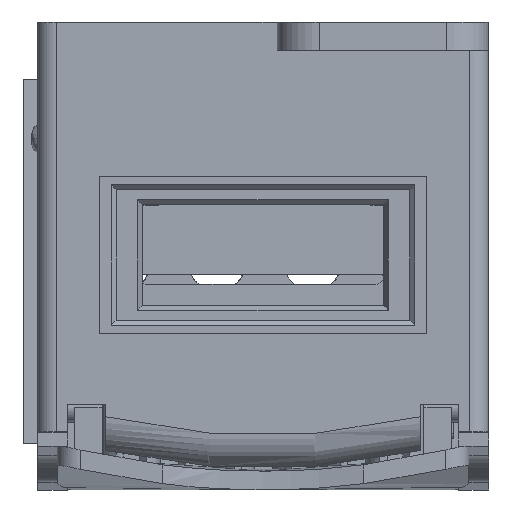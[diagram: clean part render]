
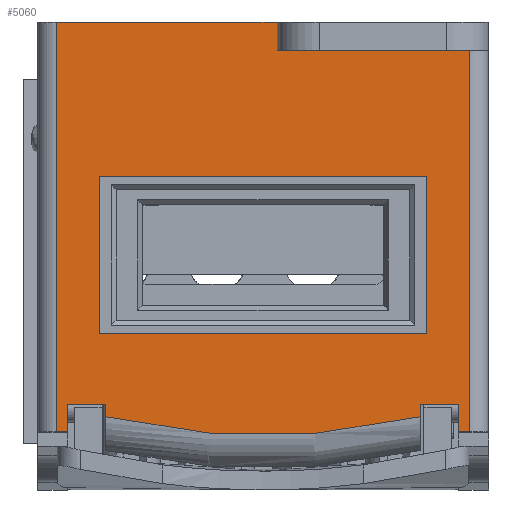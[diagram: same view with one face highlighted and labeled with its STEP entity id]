
A CAD part, front view. The second image highlights one B-rep face of the part: STEP entity #5060.
In plain terms, the highlighted planar face has unit normal (0, -1, 0).
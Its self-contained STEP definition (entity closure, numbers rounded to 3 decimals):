
#4177=FACE_BOUND('',#6488,.T.);
#4178=FACE_BOUND('',#6489,.T.);
#4385=CIRCLE('',#15479,71.704);
#5060=ADVANCED_FACE('',(#4177,#4178),#5616,.T.);
#5616=PLANE('',#15480);
#6488=EDGE_LOOP('',(#7532,#7533,#7534,#7535,#7536,#7537,#7538,#7539,#7540,
#7541,#7542,#7543,#7544,#7545));
#6489=EDGE_LOOP('',(#7546,#7547,#7548,#7549));
#7532=ORIENTED_EDGE('',*,*,#11874,.T.);
#7533=ORIENTED_EDGE('',*,*,#11867,.F.);
#7534=ORIENTED_EDGE('',*,*,#11875,.T.);
#7535=ORIENTED_EDGE('',*,*,#11876,.T.);
#7536=ORIENTED_EDGE('',*,*,#11877,.F.);
#7537=ORIENTED_EDGE('',*,*,#11878,.F.);
#7538=ORIENTED_EDGE('',*,*,#11879,.T.);
#7539=ORIENTED_EDGE('',*,*,#11780,.T.);
#7540=ORIENTED_EDGE('',*,*,#11771,.T.);
#7541=ORIENTED_EDGE('',*,*,#11769,.T.);
#7542=ORIENTED_EDGE('',*,*,#11880,.T.);
#7543=ORIENTED_EDGE('',*,*,#11881,.T.);
#7544=ORIENTED_EDGE('',*,*,#11672,.T.);
#7545=ORIENTED_EDGE('',*,*,#11670,.T.);
#7546=ORIENTED_EDGE('',*,*,#11882,.F.);
#7547=ORIENTED_EDGE('',*,*,#11883,.T.);
#7548=ORIENTED_EDGE('',*,*,#11884,.T.);
#7549=ORIENTED_EDGE('',*,*,#11885,.F.);
#10560=VERTEX_POINT('',#19920);
#10561=VERTEX_POINT('',#19922);
#10562=VERTEX_POINT('',#19926);
#10647=VERTEX_POINT('',#20115);
#10648=VERTEX_POINT('',#20117);
#10649=VERTEX_POINT('',#20121);
#10654=VERTEX_POINT('',#20139);
#10728=VERTEX_POINT('',#20311);
#10729=VERTEX_POINT('',#20313);
#10734=VERTEX_POINT('',#20328);
#10735=VERTEX_POINT('',#20330);
#10736=VERTEX_POINT('',#20332);
#10737=VERTEX_POINT('',#20334);
#10738=VERTEX_POINT('',#20337);
#10739=VERTEX_POINT('',#20340);
#10740=VERTEX_POINT('',#20341);
#10741=VERTEX_POINT('',#20343);
#10742=VERTEX_POINT('',#20345);
#11670=EDGE_CURVE('',#10561,#10560,#13298,.T.);
#11672=EDGE_CURVE('',#10562,#10561,#13299,.T.);
#11769=EDGE_CURVE('',#10648,#10647,#13373,.T.);
#11771=EDGE_CURVE('',#10649,#10648,#13374,.T.);
#11780=EDGE_CURVE('',#10654,#10649,#13383,.T.);
#11867=EDGE_CURVE('',#10728,#10729,#13445,.T.);
#11874=EDGE_CURVE('',#10560,#10729,#13452,.T.);
#11875=EDGE_CURVE('',#10728,#10734,#13453,.T.);
#11876=EDGE_CURVE('',#10734,#10735,#13454,.T.);
#11877=EDGE_CURVE('',#10736,#10735,#4385,.T.);
#11878=EDGE_CURVE('',#10737,#10736,#13455,.T.);
#11879=EDGE_CURVE('',#10737,#10654,#13456,.T.);
#11880=EDGE_CURVE('',#10647,#10738,#13457,.T.);
#11881=EDGE_CURVE('',#10738,#10562,#13458,.T.);
#11882=EDGE_CURVE('',#10739,#10740,#13459,.T.);
#11883=EDGE_CURVE('',#10739,#10741,#13460,.T.);
#11884=EDGE_CURVE('',#10741,#10742,#13461,.T.);
#11885=EDGE_CURVE('',#10740,#10742,#13462,.T.);
#13298=LINE('',#19921,#14357);
#13299=LINE('',#19925,#14358);
#13373=LINE('',#20116,#14432);
#13374=LINE('',#20120,#14433);
#13383=LINE('',#20138,#14442);
#13445=LINE('',#20312,#14504);
#13452=LINE('',#20325,#14511);
#13453=LINE('',#20327,#14512);
#13454=LINE('',#20329,#14513);
#13455=LINE('',#20333,#14514);
#13456=LINE('',#20335,#14515);
#13457=LINE('',#20336,#14516);
#13458=LINE('',#20338,#14517);
#13459=LINE('',#20339,#14518);
#13460=LINE('',#20342,#14519);
#13461=LINE('',#20344,#14520);
#13462=LINE('',#20346,#14521);
#14357=VECTOR('',#16618,1.);
#14358=VECTOR('',#16623,1.);
#14432=VECTOR('',#16759,1.);
#14433=VECTOR('',#16764,1.);
#14442=VECTOR('',#16781,1.);
#14504=VECTOR('',#16917,1.);
#14511=VECTOR('',#16926,1.);
#14512=VECTOR('',#16929,1.);
#14513=VECTOR('',#16930,1.);
#14514=VECTOR('',#16933,1.);
#14515=VECTOR('',#16934,1.);
#14516=VECTOR('',#16935,1.);
#14517=VECTOR('',#16936,1.);
#14518=VECTOR('',#16937,1.);
#14519=VECTOR('',#16938,1.);
#14520=VECTOR('',#16939,1.);
#14521=VECTOR('',#16940,1.);
#15479=AXIS2_PLACEMENT_3D('',#20331,#16931,#16932);
#15480=AXIS2_PLACEMENT_3D('',#20347,#16941,#16942);
#16618=DIRECTION('',(0.,0.,-1.));
#16623=DIRECTION('',(-1.,0.,0.));
#16759=DIRECTION('',(0.,0.,1.));
#16764=DIRECTION('',(1.,0.,0.));
#16781=DIRECTION('',(0.,0.,-1.));
#16917=DIRECTION('',(0.,0.,-1.));
#16926=DIRECTION('',(1.,0.,0.));
#16929=DIRECTION('',(1.,0.,0.));
#16930=DIRECTION('',(0.,0.,-1.));
#16931=DIRECTION('',(0.,1.,0.));
#16932=DIRECTION('',(0.234,0.,-0.972));
#16933=DIRECTION('',(0.,0.,-1.));
#16934=DIRECTION('',(1.,0.,0.));
#16935=DIRECTION('',(-1.,0.,0.));
#16936=DIRECTION('',(0.,0.,1.));
#16937=DIRECTION('',(-1.,0.,0.));
#16938=DIRECTION('',(0.,0.,-1.));
#16939=DIRECTION('',(-1.,0.,0.));
#16940=DIRECTION('',(0.,0.,-1.));
#16941=DIRECTION('',(0.,-1.,0.));
#16942=DIRECTION('',(0.,0.,1.));
#19920=CARTESIAN_POINT('',(-22.1,8.5,-43.8));
#19921=CARTESIAN_POINT('',(-22.1,8.5,0.));
#19922=CARTESIAN_POINT('',(-22.1,8.5,0.));
#19925=CARTESIAN_POINT('',(1.5,8.5,0.));
#19926=CARTESIAN_POINT('',(1.5,8.5,0.));
#20115=CARTESIAN_POINT('',(22.1,8.5,-3.));
#20116=CARTESIAN_POINT('',(22.1,8.5,-43.8));
#20117=CARTESIAN_POINT('',(22.1,8.5,-43.8));
#20120=CARTESIAN_POINT('',(20.9,8.5,-43.8));
#20121=CARTESIAN_POINT('',(20.9,8.5,-43.8));
#20138=CARTESIAN_POINT('',(20.9,8.5,-40.921));
#20139=CARTESIAN_POINT('',(20.9,8.5,-40.921));
#20311=CARTESIAN_POINT('',(-20.9,8.5,-40.921));
#20312=CARTESIAN_POINT('',(-20.9,8.5,-40.921));
#20313=CARTESIAN_POINT('',(-20.9,8.5,-43.8));
#20325=CARTESIAN_POINT('',(-22.1,8.5,-43.8));
#20327=CARTESIAN_POINT('',(-20.9,8.5,-40.921));
#20328=CARTESIAN_POINT('',(-16.8,8.5,-40.921));
#20329=CARTESIAN_POINT('',(-16.8,8.5,-40.921));
#20330=CARTESIAN_POINT('',(-16.8,8.5,-42.184));
#20331=CARTESIAN_POINT('',(0.,8.5,27.524));
#20332=CARTESIAN_POINT('',(16.8,8.5,-42.184));
#20333=CARTESIAN_POINT('',(16.8,8.5,-40.921));
#20334=CARTESIAN_POINT('',(16.8,8.5,-40.921));
#20335=CARTESIAN_POINT('',(16.8,8.5,-40.921));
#20336=CARTESIAN_POINT('',(22.1,8.5,-3.));
#20337=CARTESIAN_POINT('',(1.5,8.5,-3.));
#20338=CARTESIAN_POINT('',(1.5,8.5,-3.));
#20339=CARTESIAN_POINT('',(17.5,8.5,-16.5));
#20340=CARTESIAN_POINT('',(17.5,8.5,-16.5));
#20341=CARTESIAN_POINT('',(-17.5,8.5,-16.5));
#20342=CARTESIAN_POINT('',(17.5,8.5,-16.5));
#20343=CARTESIAN_POINT('',(17.5,8.5,-33.3));
#20344=CARTESIAN_POINT('',(17.5,8.5,-33.3));
#20345=CARTESIAN_POINT('',(-17.5,8.5,-33.3));
#20346=CARTESIAN_POINT('',(-17.5,8.5,-16.5));
#20347=CARTESIAN_POINT('',(-24.1,8.5,0.));
